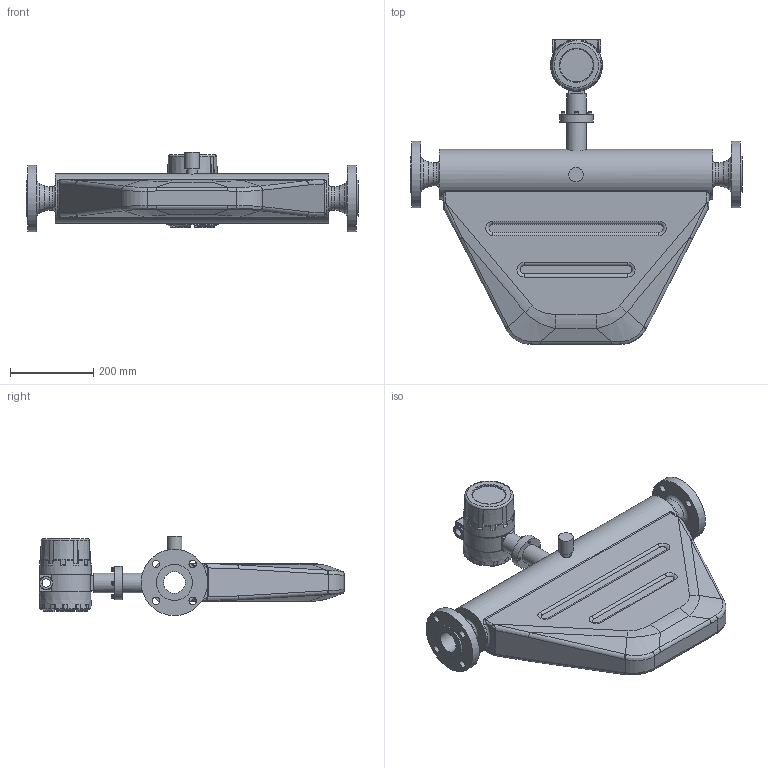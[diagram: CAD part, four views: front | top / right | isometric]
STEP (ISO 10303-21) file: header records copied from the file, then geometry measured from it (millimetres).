
FILE_DESCRIPTION(('STEP AP203'), '1');
FILE_NAME('Äó 50 - 4 ÌÏà - 100 Ñ', '', ('UNSPECIFIED'), ('UNSPECIFIED'), 'ASCON STEP Converter 1.6', 'ASCON Math Kernel', '');
FILE_SCHEMA(('CONFIG_CONTROL_DESIGN'));
Length unit declared in the file: millimetre
Products named in the file (1): Äó 50 äî 4 ÌÏà
Bounding box: 800 x 735 x 191 mm (x, y, z)
Volume: 23771747.8 mm3; surface area: 1019996.8 mm2
Topology: 1 solids, 1 shells, 427 faces, 1051 edges, 643 vertices
Faces by surface type: plane 199, cylinder 114, cone 52, bspline 36, torus 22, sphere 4
Full cylindrical faces by diameter (mm): 6.35 x4, 9.525 x4, 18 x8, 20 x1, 25 x1, 32 x2, 35 x1, 47 x2, 52.3 x1, 56 x2, 80 x2, 87 x2, 120 x1, 160 x2
Entity records: 19213 total; most frequent: CARTESIAN_POINT 6261, ORIENTED_EDGE 1958, DIRECTION 1944, EDGE_CURVE 979, AXIS2_PLACEMENT_3D 780, VERTEX_POINT 639, EDGE_LOOP 532, FACE_BOUND 453
